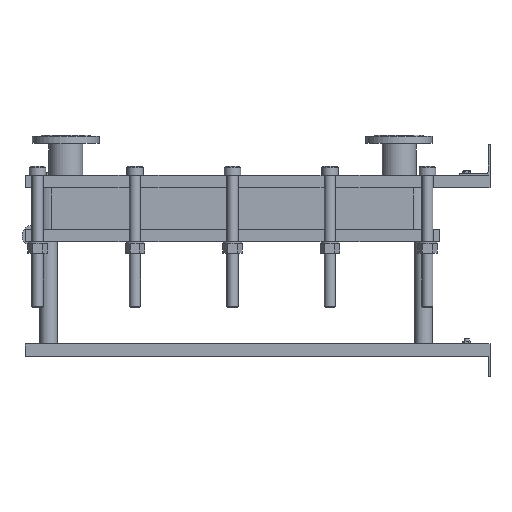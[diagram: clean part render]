
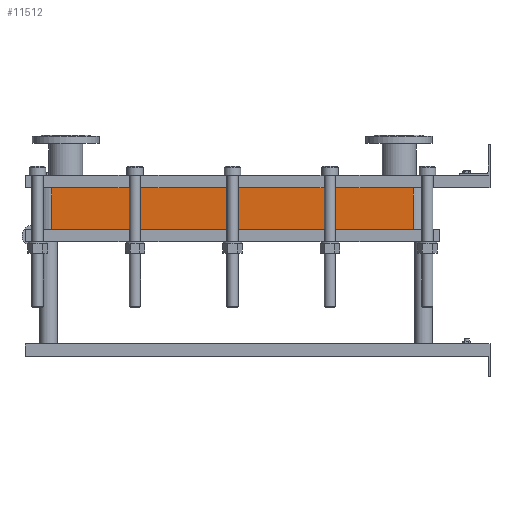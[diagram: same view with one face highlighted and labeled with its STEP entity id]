
A CAD part, left-side view. The second image highlights one B-rep face of the part: STEP entity #11512.
In plain terms, the highlighted planar face has unit normal (-1, 0, 0).
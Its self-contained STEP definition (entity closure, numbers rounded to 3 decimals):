
#1129=LINE('',#23232,#2102);
#1130=LINE('',#23236,#2103);
#1131=LINE('',#23238,#2104);
#1132=LINE('',#23239,#2105);
#2102=VECTOR('',#15887,10.);
#2103=VECTOR('',#15892,10.);
#2104=VECTOR('',#15893,10.);
#2105=VECTOR('',#15894,10.);
#3267=FACE_OUTER_BOUND('',#4093,.T.);
#4093=EDGE_LOOP('',(#10103,#10104,#10105,#10106));
#5642=VERTEX_POINT('',#23229);
#5643=VERTEX_POINT('',#23231);
#5644=VERTEX_POINT('',#23235);
#5645=VERTEX_POINT('',#23237);
#7159=EDGE_CURVE('',#5643,#5642,#1129,.T.);
#7161=EDGE_CURVE('',#5642,#5644,#1130,.T.);
#7162=EDGE_CURVE('',#5645,#5644,#1131,.T.);
#7163=EDGE_CURVE('',#5645,#5643,#1132,.T.);
#10103=ORIENTED_EDGE('',*,*,#7161,.T.);
#10104=ORIENTED_EDGE('',*,*,#7162,.F.);
#10105=ORIENTED_EDGE('',*,*,#7163,.T.);
#10106=ORIENTED_EDGE('',*,*,#7159,.T.);
#10857=PLANE('',#12751);
#11512=ADVANCED_FACE('',(#3267),#10857,.T.);
#12751=AXIS2_PLACEMENT_3D('',#23234,#15890,#15891);
#15887=DIRECTION('',(0.,0.,-1.));
#15890=DIRECTION('center_axis',(-1.,0.,0.));
#15891=DIRECTION('ref_axis',(0.,1.,0.));
#15892=DIRECTION('',(0.,-1.,0.));
#15893=DIRECTION('',(0.,0.,-1.));
#15894=DIRECTION('',(0.,1.,0.));
#23229=CARTESIAN_POINT('',(-200.,1414.,-134.55));
#23231=CARTESIAN_POINT('',(-200.,1414.,0.));
#23232=CARTESIAN_POINT('',(-200.,1414.,0.));
#23234=CARTESIAN_POINT('Origin',(-200.,248.,0.));
#23235=CARTESIAN_POINT('',(-200.,248.,-134.55));
#23236=CARTESIAN_POINT('',(-200.,539.5,-134.55));
#23237=CARTESIAN_POINT('',(-200.,248.,0.));
#23238=CARTESIAN_POINT('',(-200.,248.,0.));
#23239=CARTESIAN_POINT('',(-200.,248.,0.));
